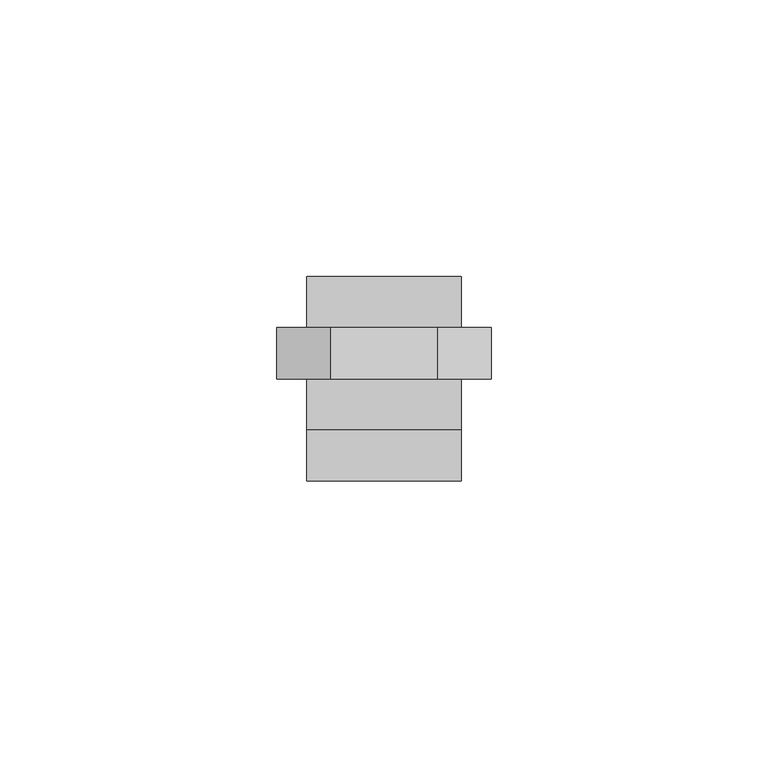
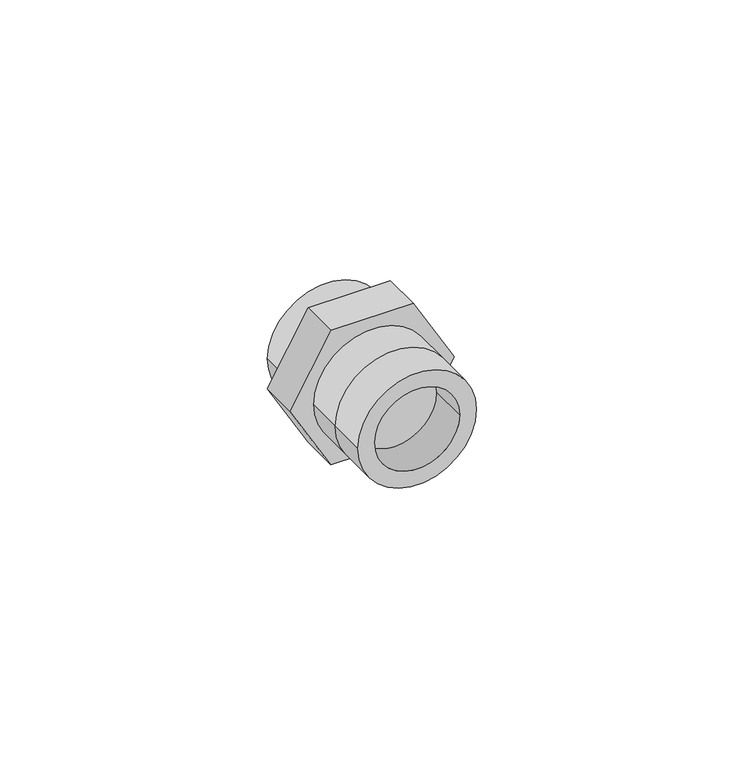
"""IFC4 building model written with IfcOpenShell, lengths in millimetres: pipe fitting geometry, EGB_VASEN_ PPR_Enlace desmontable soldar soldar WXR109 : Enlace desmontable soldar-soldar WXR109."""

from ifc_helpers import new_model, si_unit, point, frame, origin, origin_2d, place, context, project, spatial, polyline, circle_curve, trimmed, segment, composite_curve, outline, extrude, source, transform, mapped, element, save


def pipe_fitting_7b8f1bf0(model_context):
    return source(origin(), model_context, "Body", "SweptSolid", [
        extrude(outline(polyline([(0.0, 19.398969), (16.8, 9.6994845), (16.8, -9.6994845), (0.0, -19.398969), (-16.8, -9.6994845), (-16.8, 9.6994845), (0.0, 19.398969)])), frame((0.0, 2.89375, 0.0), z_axis=(0.0, 1.0, 0.0), x_axis=(0.0, 0.0, 1.0)), (0.0, 0.0, 1.0), 9.25),
        extrude(outline(composite_curve([segment(trimmed(circle_curve(origin_2d(), 14.0), [point((0.0, -14.0))], [point((0.0, 14.0))], False, "CARTESIAN"), True, "CONTINUOUS"), segment(trimmed(circle_curve(origin_2d(), 14.0), [point((0.0, 14.0))], [point((0.0, -14.0))], False, "CARTESIAN"), True, "CONTINUOUS")], self_intersect=False), holes=[composite_curve([segment(trimmed(circle_curve(origin_2d(), 10.0), [point((0.0, -10.0))], [point((0.0, 10.0))], True, "CARTESIAN"), True, "CONTINUOUS"), segment(trimmed(circle_curve(origin_2d(), 10.0), [point((0.0, 10.0))], [point((0.0, -10.0))], True, "CARTESIAN"), True, "CONTINUOUS")], self_intersect=False)]), frame((0.0, -15.60625, 0.0), z_axis=(0.0, 1.0, 0.0), x_axis=(0.0, 0.0, 1.0)), (0.0, 0.0, 1.0), 9.25),
        extrude(outline(composite_curve([segment(trimmed(circle_curve(origin_2d(), 14.0), [point((0.0, -14.0))], [point((0.0, 14.0))], False, "CARTESIAN"), True, "CONTINUOUS"), segment(trimmed(circle_curve(origin_2d(), 14.0), [point((0.0, 14.0))], [point((0.0, -14.0))], False, "CARTESIAN"), True, "CONTINUOUS")], self_intersect=False), holes=[composite_curve([segment(trimmed(circle_curve(origin_2d(), 10.0), [point((0.0, -10.0))], [point((0.0, 10.0))], True, "CARTESIAN"), True, "CONTINUOUS"), segment(trimmed(circle_curve(origin_2d(), 10.0), [point((0.0, 10.0))], [point((0.0, -10.0))], True, "CARTESIAN"), True, "CONTINUOUS")], self_intersect=False)]), frame((0.0, 12.14375, 0.0), z_axis=(0.0, 1.0, 0.0), x_axis=(0.0, 0.0, 1.0)), (0.0, 0.0, 1.0), 9.25),
        extrude(outline(composite_curve([segment(trimmed(circle_curve(origin_2d(), 14.0), [point((0.0, -14.0))], [point((0.0, 14.0))], False, "CARTESIAN"), True, "CONTINUOUS"), segment(trimmed(circle_curve(origin_2d(), 14.0), [point((0.0, 14.0))], [point((0.0, -14.0))], False, "CARTESIAN"), True, "CONTINUOUS")], self_intersect=False)), frame((0.0, -6.35625, 0.0), z_axis=(0.0, 1.0, 0.0), x_axis=(0.0, 0.0, 1.0)), (0.0, 0.0, 1.0), 9.25),
    ])


if __name__ == "__main__":
    model = new_model("IFC4")
    model_context = context("Model", 3, world=origin())
    ifc_project = project(units=[si_unit("LENGTHUNIT", "METRE", prefix="MILLI")], contexts=[model_context])
    site = spatial("IfcSite", under=ifc_project)
    building = spatial("IfcBuilding", under=site)
    placement = place(None, origin())
    pipe_fitting_shape = pipe_fitting_7b8f1bf0(model_context)
    element("IfcPipeFitting", 1, ObjectType="EGB_VASEN_ PPR_Enlace desmontable soldar soldar WXR109 : Enlace desmontable soldar-soldar WXR109", at=placement, inside=building, context=model_context, shape_type="MappedRepresentation", body=[
        mapped(pipe_fitting_shape, transform((0.0, 0.0, 0.0), x_axis=(1.0, 0.0, 0.0), y_axis=(0.0, 1.0, 0.0), z_axis=(0.0, 0.0, 1.0))),
    ])
    save(model, "model.ifc")
